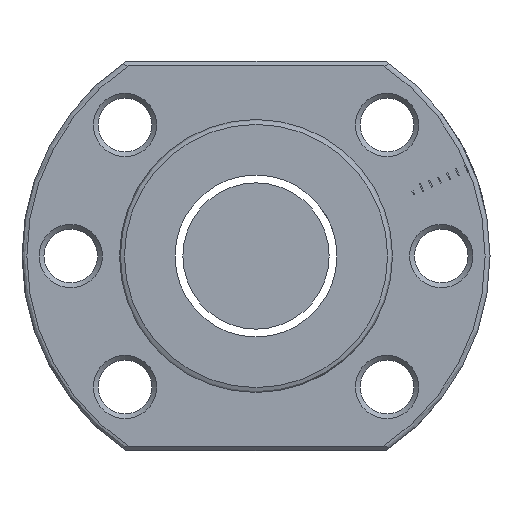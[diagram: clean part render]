
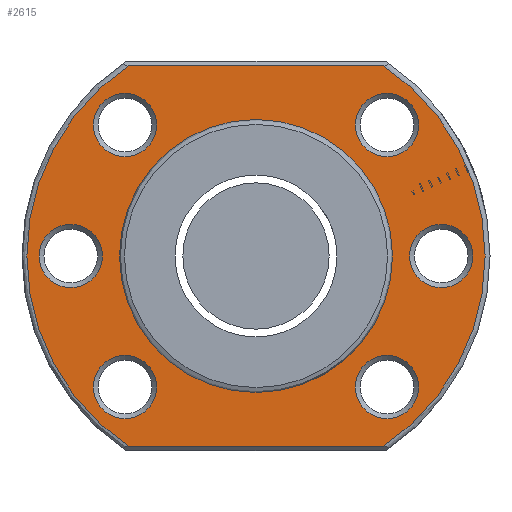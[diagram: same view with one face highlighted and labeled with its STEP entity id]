
A CAD part, left-side view. The second image highlights one B-rep face of the part: STEP entity #2615.
In plain terms, the highlighted planar face has unit normal (-1, 0, 0).
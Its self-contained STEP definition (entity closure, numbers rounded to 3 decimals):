
#30 = VERTEX_POINT ( 'NONE', #454 ) ;
#68 = CARTESIAN_POINT ( 'NONE',  ( -26., -13.435, -13.435 ) ) ;
#77 = AXIS2_PLACEMENT_3D ( 'NONE', #85, #307, #516 ) ;
#85 = CARTESIAN_POINT ( 'NONE',  ( -26., 13.435, 13.435 ) ) ;
#113 = ORIENTED_EDGE ( 'NONE', *, *, #577, .T. ) ;
#134 = AXIS2_PLACEMENT_3D ( 'NONE', #3109, #2608, #1160 ) ;
#191 = CIRCLE ( 'NONE', #134, 3.25 ) ;
#230 = CARTESIAN_POINT ( 'NONE',  ( -26., -13.435, 16.685 ) ) ;
#246 = CARTESIAN_POINT ( 'NONE',  ( -26., 13.435, 16.685 ) ) ;
#280 = ORIENTED_EDGE ( 'NONE', *, *, #2921, .T. ) ;
#307 = DIRECTION ( 'NONE',  ( 1., 0., 0. ) ) ;
#338 = AXIS2_PLACEMENT_3D ( 'NONE', #3113, #2137, #2363 ) ;
#368 = LINE ( 'NONE', #2284, #2723 ) ;
#392 = CIRCLE ( 'NONE', #2678, 23.5 ) ;
#445 = DIRECTION ( 'NONE',  ( -1., 0., 0. ) ) ;
#454 = CARTESIAN_POINT ( 'NONE',  ( -26., -13.115, 19.5 ) ) ;
#491 = FACE_BOUND ( 'NONE', #3067, .T. ) ;
#516 = DIRECTION ( 'NONE',  ( 0., 0., 1. ) ) ;
#517 = FACE_BOUND ( 'NONE', #2287, .T. ) ;
#529 = FACE_BOUND ( 'NONE', #3050, .T. ) ;
#553 = DIRECTION ( 'NONE',  ( 0., 0., 1. ) ) ;
#577 = EDGE_CURVE ( 'NONE', #1217, #1217, #1282, .T. ) ;
#582 = CIRCLE ( 'NONE', #635, 3.25 ) ;
#608 = VERTEX_POINT ( 'NONE', #1711 ) ;
#635 = AXIS2_PLACEMENT_3D ( 'NONE', #1557, #1314, #1072 ) ;
#692 = CARTESIAN_POINT ( 'NONE',  ( -26., 0., 0. ) ) ;
#720 = VERTEX_POINT ( 'NONE', #1416 ) ;
#733 = CARTESIAN_POINT ( 'NONE',  ( -26., 19., 3.25 ) ) ;
#751 = LINE ( 'NONE', #2510, #2774 ) ;
#754 = FACE_BOUND ( 'NONE', #1898, .T. ) ;
#785 = CIRCLE ( 'NONE', #3083, 14. ) ;
#806 = EDGE_CURVE ( 'NONE', #981, #981, #1238, .T. ) ;
#813 = ORIENTED_EDGE ( 'NONE', *, *, #2475, .T. ) ;
#837 = AXIS2_PLACEMENT_3D ( 'NONE', #1436, #1002, #2910 ) ;
#841 = CARTESIAN_POINT ( 'NONE',  ( -26., 19., 0. ) ) ;
#849 = ORIENTED_EDGE ( 'NONE', *, *, #2501, .T. ) ;
#862 = ORIENTED_EDGE ( 'NONE', *, *, #806, .T. ) ;
#907 = EDGE_CURVE ( 'NONE', #1188, #1188, #582, .T. ) ;
#927 = VERTEX_POINT ( 'NONE', #1173 ) ;
#958 = DIRECTION ( 'NONE',  ( -1., 0., 0. ) ) ;
#981 = VERTEX_POINT ( 'NONE', #733 ) ;
#1002 = DIRECTION ( 'NONE',  ( -1., 0., 0. ) ) ;
#1059 = DIRECTION ( 'NONE',  ( 0., 0., 1. ) ) ;
#1072 = DIRECTION ( 'NONE',  ( 0., 0., 1. ) ) ;
#1085 = ORIENTED_EDGE ( 'NONE', *, *, #2434, .T. ) ;
#1103 = EDGE_LOOP ( 'NONE', ( #1118 ) ) ;
#1118 = ORIENTED_EDGE ( 'NONE', *, *, #1220, .T. ) ;
#1160 = DIRECTION ( 'NONE',  ( 0., 0., 1. ) ) ;
#1161 = DIRECTION ( 'NONE',  ( 0., 0., 1. ) ) ;
#1173 = CARTESIAN_POINT ( 'NONE',  ( -26., 0., -14. ) ) ;
#1175 = CARTESIAN_POINT ( 'NONE',  ( -26., 13.115, 19.5 ) ) ;
#1188 = VERTEX_POINT ( 'NONE', #230 ) ;
#1195 = PLANE ( 'NONE',  #837 ) ;
#1217 = VERTEX_POINT ( 'NONE', #246 ) ;
#1220 = EDGE_CURVE ( 'NONE', #2651, #2651, #191, .T. ) ;
#1238 = CIRCLE ( 'NONE', #2771, 3.25 ) ;
#1249 = DIRECTION ( 'NONE',  ( 0., 1., 0. ) ) ;
#1282 = CIRCLE ( 'NONE', #77, 3.25 ) ;
#1289 = CIRCLE ( 'NONE', #3026, 23.5 ) ;
#1302 = ORIENTED_EDGE ( 'NONE', *, *, #907, .T. ) ;
#1314 = DIRECTION ( 'NONE',  ( 1., 0., 0. ) ) ;
#1416 = CARTESIAN_POINT ( 'NONE',  ( -26., 13.435, -10.185 ) ) ;
#1436 = CARTESIAN_POINT ( 'NONE',  ( -26., 24., 0. ) ) ;
#1453 = FACE_BOUND ( 'NONE', #2766, .T. ) ;
#1455 = EDGE_CURVE ( 'NONE', #1784, #608, #368, .T. ) ;
#1468 = FACE_OUTER_BOUND ( 'NONE', #1543, .T. ) ;
#1543 = EDGE_LOOP ( 'NONE', ( #2687, #3031, #2854, #849 ) ) ;
#1546 = CIRCLE ( 'NONE', #2386, 3.25 ) ;
#1557 = CARTESIAN_POINT ( 'NONE',  ( -26., -13.435, 13.435 ) ) ;
#1606 = CIRCLE ( 'NONE', #338, 3.25 ) ;
#1693 = CARTESIAN_POINT ( 'NONE',  ( -26., 0., 0. ) ) ;
#1711 = CARTESIAN_POINT ( 'NONE',  ( -26., -13.115, -19.5 ) ) ;
#1784 = VERTEX_POINT ( 'NONE', #2735 ) ;
#1898 = EDGE_LOOP ( 'NONE', ( #1302 ) ) ;
#1923 = VERTEX_POINT ( 'NONE', #2638 ) ;
#1942 = DIRECTION ( 'NONE',  ( 0., 0., 1. ) ) ;
#1967 = DIRECTION ( 'NONE',  ( 1., 0., 0. ) ) ;
#1973 = FACE_BOUND ( 'NONE', #2303, .T. ) ;
#2105 = VERTEX_POINT ( 'NONE', #1175 ) ;
#2137 = DIRECTION ( 'NONE',  ( 1., 0., 0. ) ) ;
#2141 = EDGE_CURVE ( 'NONE', #2105, #1784, #1289, .T. ) ;
#2226 = CARTESIAN_POINT ( 'NONE',  ( -26., 0., 0. ) ) ;
#2257 = DIRECTION ( 'NONE',  ( 0., 0., -1. ) ) ;
#2266 = EDGE_CURVE ( 'NONE', #608, #30, #392, .T. ) ;
#2284 = CARTESIAN_POINT ( 'NONE',  ( -26., 24., -19.5 ) ) ;
#2287 = EDGE_LOOP ( 'NONE', ( #280 ) ) ;
#2303 = EDGE_LOOP ( 'NONE', ( #813 ) ) ;
#2363 = DIRECTION ( 'NONE',  ( 0., 0., 1. ) ) ;
#2386 = AXIS2_PLACEMENT_3D ( 'NONE', #68, #2742, #553 ) ;
#2434 = EDGE_CURVE ( 'NONE', #927, #927, #785, .T. ) ;
#2475 = EDGE_CURVE ( 'NONE', #1923, #1923, #1546, .T. ) ;
#2501 = EDGE_CURVE ( 'NONE', #30, #2105, #751, .T. ) ;
#2510 = CARTESIAN_POINT ( 'NONE',  ( -26., 24., 19.5 ) ) ;
#2608 = DIRECTION ( 'NONE',  ( 1., 0., 0. ) ) ;
#2615 = ADVANCED_FACE ( 'NONE', ( #1973, #2938, #754, #491, #529, #517, #1453, #1468 ), #1195, .T. ) ;
#2638 = CARTESIAN_POINT ( 'NONE',  ( -26., -13.435, -10.185 ) ) ;
#2651 = VERTEX_POINT ( 'NONE', #2889 ) ;
#2678 = AXIS2_PLACEMENT_3D ( 'NONE', #1693, #958, #1161 ) ;
#2687 = ORIENTED_EDGE ( 'NONE', *, *, #2141, .T. ) ;
#2723 = VECTOR ( 'NONE', #2767, 1000. ) ;
#2735 = CARTESIAN_POINT ( 'NONE',  ( -26., 13.115, -19.5 ) ) ;
#2742 = DIRECTION ( 'NONE',  ( 1., 0., 0. ) ) ;
#2758 = DIRECTION ( 'NONE',  ( 1., 0., 0. ) ) ;
#2766 = EDGE_LOOP ( 'NONE', ( #1085 ) ) ;
#2767 = DIRECTION ( 'NONE',  ( 0., -1., 0. ) ) ;
#2771 = AXIS2_PLACEMENT_3D ( 'NONE', #841, #2758, #1059 ) ;
#2774 = VECTOR ( 'NONE', #1249, 1000. ) ;
#2854 = ORIENTED_EDGE ( 'NONE', *, *, #2266, .T. ) ;
#2889 = CARTESIAN_POINT ( 'NONE',  ( -26., -19., 3.25 ) ) ;
#2910 = DIRECTION ( 'NONE',  ( 0., 0., 1. ) ) ;
#2921 = EDGE_CURVE ( 'NONE', #720, #720, #1606, .T. ) ;
#2938 = FACE_BOUND ( 'NONE', #1103, .T. ) ;
#3026 = AXIS2_PLACEMENT_3D ( 'NONE', #692, #445, #1942 ) ;
#3031 = ORIENTED_EDGE ( 'NONE', *, *, #1455, .T. ) ;
#3050 = EDGE_LOOP ( 'NONE', ( #862 ) ) ;
#3067 = EDGE_LOOP ( 'NONE', ( #113 ) ) ;
#3083 = AXIS2_PLACEMENT_3D ( 'NONE', #2226, #1967, #2257 ) ;
#3109 = CARTESIAN_POINT ( 'NONE',  ( -26., -19., 0. ) ) ;
#3113 = CARTESIAN_POINT ( 'NONE',  ( -26., 13.435, -13.435 ) ) ;
